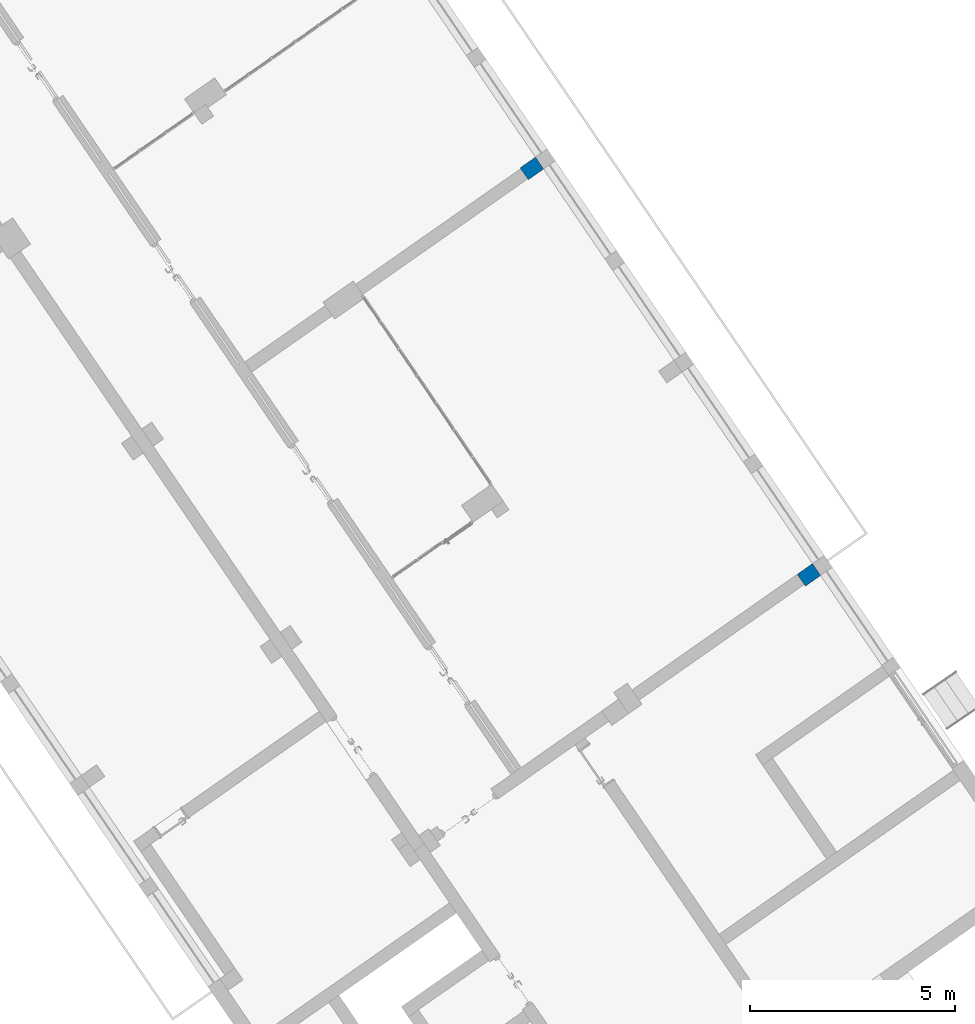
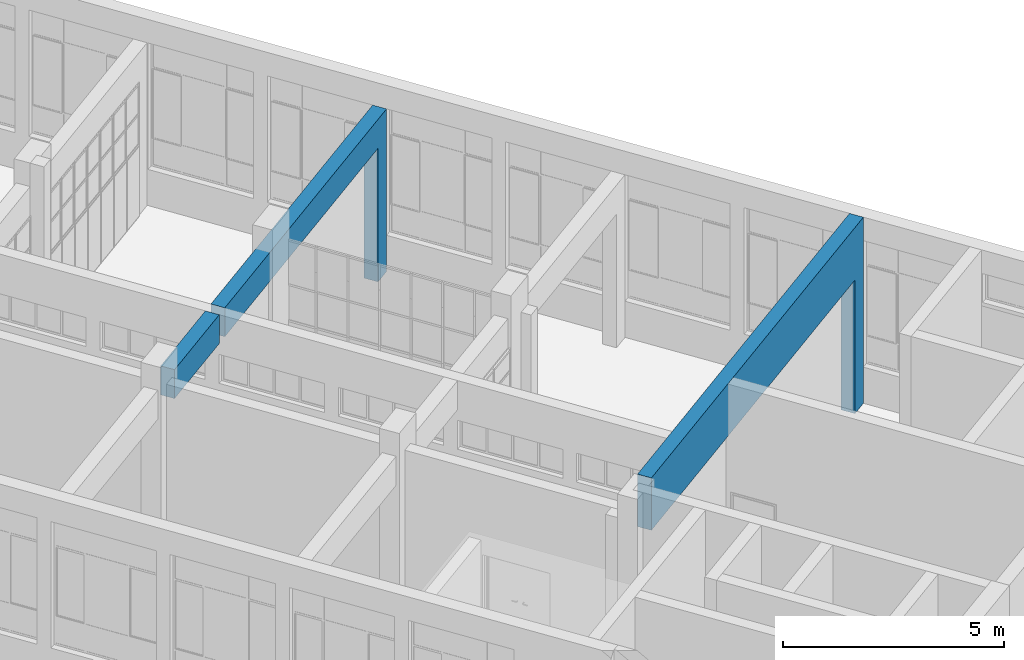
# One storey, part 145 of 157: 2 walls.
"""IFC2X3 building model written with IfcOpenShell, lengths in millimetres."""

import ifcopenshell
import ifcopenshell.guid

model = None  # the IFC model being written
_history = None  # IfcOwnerHistory: only IFC2X3 demands one
_inside = {}  # id of a spatial element -> (the spatial element, [elements in it])
_under = {}  # id of a project, library or spatial element -> (it, [spatial elements below it])
_declared = {}  # id of a project -> (the project, [libraries it declares])
_typed = {}  # id of a type object -> (the type object, [elements of that type])
_made_of = {}  # id of a material, layer set ... -> (it, [elements and type objects made of it])


def new_model(schema):
    """Start an empty IFC model of exactly this schema.

    Asked for "IFC4X3", IfcOpenShell would pick the latest addendum, in which some entities
    have other attributes; the version numbers below select the first issue.
    IFC2X3 requires an IfcOwnerHistory on every rooted entity: one is made here for all.
    """
    global model, _history
    if schema == "IFC4X3":
        model = ifcopenshell.file(schema_version=(4, 3, 0, 0))
    else:
        model = ifcopenshell.file(schema=schema)
    _inside.clear()
    _under.clear()
    _declared.clear()
    _typed.clear()
    _made_of.clear()
    _history = None
    if model.schema == "IFC2X3":
        org = make("IfcOrganization", Name="unknown")
        user = make(
            "IfcPersonAndOrganization",
            ThePerson=make("IfcPerson", FamilyName="unknown"),
            TheOrganization=org,
        )
        app = make(
            "IfcApplication",
            ApplicationDeveloper=org,
            Version="unknown",
            ApplicationFullName="unknown",
            ApplicationIdentifier="unknown",
        )
        _history = make(
            "IfcOwnerHistory",
            OwningUser=user,
            OwningApplication=app,
            ChangeAction="ADDED",
            CreationDate=0,
        )
    return model


def make(cls, **values):
    """One entity of the class cls with the attributes given. An attribute that is None is left unset."""
    return model.create_entity(
        cls, **{name: value for name, value in values.items() if value is not None}
    )


def entity(cls, *values):
    """Any entity or typed value of the class cls, its attributes in the order of the schema. None: left unset."""
    e = model.create_entity(cls)
    for i, value in enumerate(values):
        if value is not None:
            e[i] = value
    return e


def rooted(cls, **values):
    """An entity with a GlobalId (a new one), such as an element, a storey or a relation."""
    return make(cls, GlobalId=ifcopenshell.guid.new(), OwnerHistory=_history, **values)


def si_unit(unit_type, name, prefix=None):
    """IfcSIUnit, for example si_unit("LENGTHUNIT", "METRE", prefix="MILLI")."""
    return make("IfcSIUnit", UnitType=unit_type, Prefix=prefix, Name=name)


def converted_unit(unit_type, name, factor, base, dimensions=None, offset=None):
    """IfcConversionBasedUnit, such as the inch: factor (a typed value) times the base unit."""
    return make(
        "IfcConversionBasedUnit"
        if offset is None
        else "IfcConversionBasedUnitWithOffset",
        ConversionOffset=offset,
        Dimensions=None
        if dimensions is None
        else entity("IfcDimensionalExponents", *dimensions),
        UnitType=unit_type,
        Name=name,
        ConversionFactor=make(
            "IfcMeasureWithUnit", ValueComponent=factor, UnitComponent=base
        ),
    )


def derived_unit(unit_type, elements):
    """IfcDerivedUnit: a product of units, each with its exponent."""
    return make(
        "IfcDerivedUnit",
        Elements=[
            make("IfcDerivedUnitElement", Unit=unit, Exponent=power)
            for unit, power in elements
        ],
        UnitType=unit_type,
    )


def assignment(units):
    """IfcUnitAssignment: the units of a project."""
    return None if units is None else make("IfcUnitAssignment", Units=units)


def point(xyz):
    """IfcCartesianPoint."""
    return None if xyz is None else make("IfcCartesianPoint", Coordinates=xyz)


def direction(xyz):
    """IfcDirection."""
    return None if xyz is None else make("IfcDirection", DirectionRatios=xyz)


def frame(location, z_axis=None, x_axis=None):
    """IfcAxis2Placement3D, a coordinate frame: its origin and axes. An axis left out is left unset."""
    return make(
        "IfcAxis2Placement3D",
        Location=point(location),
        Axis=direction(z_axis),
        RefDirection=direction(x_axis),
    )


def origin():
    """The frame at (0, 0, 0) with its axes left unset."""
    return frame((0.0, 0.0, 0.0))


def place(relative_to, where):
    """IfcLocalPlacement: puts the frame where relative to a parent placement (None: the world)."""
    return make(
        "IfcLocalPlacement", PlacementRelTo=relative_to, RelativePlacement=where
    )


def context(
    kind, dimensions, precision=None, world=None, true_north=None, identifier=None
):
    """IfcGeometricRepresentationContext, for example the 3D "Model" context."""
    return make(
        "IfcGeometricRepresentationContext",
        ContextIdentifier=identifier,
        ContextType=kind,
        CoordinateSpaceDimension=dimensions,
        Precision=precision,
        WorldCoordinateSystem=world,
        TrueNorth=true_north,
    )


def subcontext(parent, identifier, kind, view, scale=None):
    """IfcGeometricRepresentationSubContext, for example "Body" below "Model"."""
    return make(
        "IfcGeometricRepresentationSubContext",
        ContextIdentifier=identifier,
        ContextType=kind,
        ParentContext=parent,
        TargetScale=scale,
        TargetView=view,
    )


def project(units=None, contexts=None):
    """IfcProject with its units and contexts."""
    return rooted(
        "IfcProject",
        Name="project",
        RepresentationContexts=contexts,
        UnitsInContext=assignment(units),
    )


def spatial(cls, under=None, at=None, **own):
    """A site, building, storey or space (cls), placed at a placement, below another one or the project."""
    s = rooted(cls, ObjectPlacement=at, **own)
    if under is not None:
        _under.setdefault(under.id(), (under, []))[1].append(s)
    return s


def faces_of(points, faces, orient=None, outer=None):
    """IfcFace entities. A face is a list of loops; a loop is a list of indices into points, from 0.

    orient and outer hold one flag for each loop. By default every Orientation is true, the
    first loop of a face is its IfcFaceOuterBound and the others are IfcFaceBound.
    """
    made = []
    for i, loops in enumerate(faces):
        bounds = []
        for j, loop in enumerate(loops):
            is_outer = j == 0 if outer is None else outer[i][j]
            bounds.append(
                make(
                    "IfcFaceOuterBound" if is_outer else "IfcFaceBound",
                    Bound=make("IfcPolyLoop", Polygon=[points[k] for k in loop]),
                    Orientation=True if orient is None else orient[i][j],
                )
            )
        made.append(make("IfcFace", Bounds=bounds))
    return made


def faceted_brep(points, faces, orient=None, outer=None, voids=None):
    """IfcFacetedBrep: a solid bounded by flat faces; with voids (closed shells), ...WithVoids."""
    shared = [point(p) for p in points]
    hull = make("IfcClosedShell", CfsFaces=faces_of(shared, faces, orient, outer))
    if voids is None:
        return make("IfcFacetedBrep", Outer=hull)
    return make(
        "IfcFacetedBrepWithVoids",
        Outer=hull,
        Voids=[
            make(cls, CfsFaces=faces_of(shared, fs, o, b)) for cls, fs, o, b in voids
        ],
    )


def shape(context_of_items, identifier, shape_type, items):
    """IfcShapeRepresentation: the items that make up one representation, for example the "Body"."""
    return make(
        "IfcShapeRepresentation",
        ContextOfItems=context_of_items,
        RepresentationIdentifier=identifier,
        RepresentationType=shape_type,
        Items=items,
    )


def material(Name=None, Category=None):
    """IfcMaterial."""
    return make("IfcMaterial", Name=Name, Category=Category)


def layer(
    of_material, thickness, ventilated=None, Name=None, Category=None, Priority=None
):
    """IfcMaterialLayer: one layer of a wall or slab, of a material (None: an air gap)."""
    return make(
        "IfcMaterialLayer",
        Material=of_material,
        LayerThickness=thickness,
        IsVentilated=ventilated,
        Name=Name,
        Category=Category,
        Priority=Priority,
    )


def layer_set(layers, Name=None):
    """IfcMaterialLayerSet."""
    return make("IfcMaterialLayerSet", MaterialLayers=layers, LayerSetName=Name)


def made_of(thing, what):
    """Note that an element or type object is made of a material, layer set ...; save() writes the relation."""
    if what is not None:
        _made_of.setdefault(what.id(), (what, []))[1].append(thing)
    return thing


def type_object(cls, material=None, **own):
    """A type object (cls), such as IfcWallType, which elements share."""
    return made_of(rooted(cls, **own), material)


def element(
    cls,
    number,
    at=None,
    inside=None,
    cuts=None,
    type_object=None,
    material=None,
    context=None,
    identifier="Body",
    shape_type=None,
    held_by="IfcProductDefinitionShape",
    body=None,
    shapes=None,
    **own,
):
    """One element of the class cls, such as IfcWall. Its Tag is "e" and its number.

    at: its placement. inside: the storey or other place that contains it. cuts: it is an
    opening in that element (IfcRelVoidsElement). A single representation is given by context,
    identifier, shape_type and body (its items); several are given by shapes. held_by: the class
    of the entity that holds the representations. save() writes the other relations.
    """
    e = rooted(cls, Tag="e%d" % number, ObjectPlacement=at, **own)
    if body is not None:
        shapes = [shape(context, identifier, shape_type, body)]
    if shapes is not None:
        e.Representation = make(held_by, Representations=shapes)
    if inside is not None:
        _inside.setdefault(inside.id(), (inside, []))[1].append(e)
    if cuts is not None:
        rooted(
            "IfcRelVoidsElement", RelatingBuildingElement=cuts, RelatedOpeningElement=e
        )
    if type_object is not None:
        _typed.setdefault(type_object.id(), (type_object, []))[1].append(e)
    return made_of(e, material)


def aggregate(whole, parts):
    """IfcRelAggregates: a whole, such as a stair, and the parts it consists of."""
    return rooted("IfcRelAggregates", RelatingObject=whole, RelatedObjects=parts)


def save(model, path):
    """Write the relations noted so far, then the file.

    IfcRelAggregates (storeys below a building ...), IfcRelContainedInSpatialStructure (elements
    in a storey), IfcRelDefinesByType, IfcRelAssociatesMaterial and IfcRelDeclares: one each for
    every whole, place, type object, material and project.
    """
    for whole, parts in _under.values():
        aggregate(whole, parts)
    for where, things in _inside.values():
        rooted(
            "IfcRelContainedInSpatialStructure",
            RelatedElements=things,
            RelatingStructure=where,
        )
    for kind, things in _typed.values():
        rooted("IfcRelDefinesByType", RelatedObjects=things, RelatingType=kind)
    for what, things in _made_of.values():
        rooted("IfcRelAssociatesMaterial", RelatedObjects=things, RelatingMaterial=what)
    for by, libraries in _declared.values():
        rooted("IfcRelDeclares", RelatingContext=by, RelatedDefinitions=libraries)
    model.write(path)


model = new_model("IFC2X3")

# Units and contexts
model_context = context("Model", 3, precision=0.01, world=origin(), true_north=direction((6.123031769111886e-17, 1.0)))
body_context = subcontext(model_context, "Body", "Model", "MODEL_VIEW")
ifc_project = project(units=[si_unit("LENGTHUNIT", "METRE", prefix="MILLI"), si_unit("AREAUNIT", "SQUARE_METRE"), si_unit("VOLUMEUNIT", "CUBIC_METRE"), converted_unit("PLANEANGLEUNIT", "DEGREE", entity("IfcRatioMeasure", 0.017453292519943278), si_unit("PLANEANGLEUNIT", "RADIAN"), dimensions=[0, 0, 0, 0, 0, 0, 0]), si_unit("MASSUNIT", "GRAM", prefix="KILO"), derived_unit("MASSDENSITYUNIT", [(si_unit("MASSUNIT", "GRAM", prefix="KILO"), 1), (si_unit("LENGTHUNIT", "METRE"), -3)]), derived_unit("MOMENTOFINERTIAUNIT", [(si_unit("LENGTHUNIT", "METRE"), 4)]), si_unit("TIMEUNIT", "SECOND"), si_unit("FREQUENCYUNIT", "HERTZ"), si_unit("THERMODYNAMICTEMPERATUREUNIT", "DEGREE_CELSIUS"), derived_unit("THERMALTRANSMITTANCEUNIT", [(si_unit("MASSUNIT", "GRAM", prefix="KILO"), 1), (si_unit("THERMODYNAMICTEMPERATUREUNIT", "KELVIN"), -1), (si_unit("TIMEUNIT", "SECOND"), -3)]), derived_unit("THERMALCONDUCTANCEUNIT", [(si_unit("MASSUNIT", "GRAM", prefix="KILO"), 1), (si_unit("LENGTHUNIT", "METRE"), 1), (si_unit("THERMODYNAMICTEMPERATUREUNIT", "KELVIN"), -1), (si_unit("TIMEUNIT", "SECOND"), -3)]), derived_unit("VOLUMETRICFLOWRATEUNIT", [(si_unit("LENGTHUNIT", "METRE"), 3), (si_unit("TIMEUNIT", "SECOND"), -1)]), derived_unit("MASSFLOWRATEUNIT", [(si_unit("MASSUNIT", "GRAM", prefix="KILO"), 1), (si_unit("TIMEUNIT", "SECOND"), -1)]), derived_unit("ROTATIONALFREQUENCYUNIT", [(si_unit("TIMEUNIT", "SECOND"), -1)]), si_unit("ELECTRICCURRENTUNIT", "AMPERE"), si_unit("ELECTRICVOLTAGEUNIT", "VOLT"), si_unit("POWERUNIT", "WATT"), converted_unit("FORCEUNIT", "KIP", entity("IfcRatioMeasure", 2.088543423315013e-05), si_unit("FORCEUNIT", "NEWTON"), dimensions=[1, 1, -2, 0, 0, 0, 0]), si_unit("ILLUMINANCEUNIT", "LUX"), si_unit("LUMINOUSFLUXUNIT", "LUMEN"), si_unit("LUMINOUSINTENSITYUNIT", "CANDELA"), derived_unit("USERDEFINED", [(si_unit("MASSUNIT", "GRAM", prefix="KILO"), -1), (si_unit("LENGTHUNIT", "METRE"), -2), (si_unit("TIMEUNIT", "SECOND"), 3), (si_unit("LUMINOUSFLUXUNIT", "LUMEN"), 1)]), derived_unit("USERDEFINED", [(si_unit("MASSUNIT", "GRAM", prefix="KILO"), 1), (si_unit("LENGTHUNIT", "METRE"), 3), (si_unit("TIMEUNIT", "SECOND"), -3), (si_unit("ELECTRICCURRENTUNIT", "AMPERE"), -2)]), derived_unit("USERDEFINED", [(si_unit("LENGTHUNIT", "METRE"), 2), (si_unit("TIMEUNIT", "SECOND"), -2)]), derived_unit("SOUNDPOWERUNIT", [(si_unit("MASSUNIT", "GRAM", prefix="KILO"), 1), (si_unit("LENGTHUNIT", "METRE"), 2), (si_unit("TIMEUNIT", "SECOND"), -3)]), derived_unit("SOUNDPRESSUREUNIT", [(si_unit("MASSUNIT", "GRAM", prefix="KILO"), 1), (si_unit("LENGTHUNIT", "METRE"), -1), (si_unit("TIMEUNIT", "SECOND"), -2)]), derived_unit("LINEARVELOCITYUNIT", [(si_unit("LENGTHUNIT", "METRE"), 1), (si_unit("TIMEUNIT", "SECOND"), -1)]), si_unit("PRESSUREUNIT", "PASCAL"), derived_unit("USERDEFINED", [(si_unit("LENGTHUNIT", "METRE"), -2), (si_unit("MASSUNIT", "GRAM", prefix="KILO"), 1), (si_unit("TIMEUNIT", "SECOND"), -2)]), derived_unit("LINEARFORCEUNIT", [(si_unit("MASSUNIT", "GRAM", prefix="KILO"), 1), (si_unit("LENGTHUNIT", "METRE"), 1), (si_unit("TIMEUNIT", "SECOND"), -2), (si_unit("LENGTHUNIT", "METRE"), -1)]), derived_unit("PLANARFORCEUNIT", [(si_unit("MASSUNIT", "GRAM", prefix="KILO"), 1), (si_unit("LENGTHUNIT", "METRE"), 1), (si_unit("TIMEUNIT", "SECOND"), -2), (si_unit("LENGTHUNIT", "METRE"), -2)]), derived_unit("SPECIFICHEATCAPACITYUNIT", [(si_unit("LENGTHUNIT", "METRE"), 2), (si_unit("TIMEUNIT", "SECOND"), -2), (si_unit("THERMODYNAMICTEMPERATUREUNIT", "KELVIN"), -1)]), derived_unit("VAPORPERMEABILITYUNIT", [(si_unit("TIMEUNIT", "SECOND"), 1), (si_unit("LENGTHUNIT", "METRE"), -1)]), derived_unit("DYNAMICVISCOSITYUNIT", [(si_unit("MASSUNIT", "GRAM", prefix="KILO"), 1), (si_unit("LENGTHUNIT", "METRE"), -1), (si_unit("TIMEUNIT", "SECOND"), -1)]), derived_unit("THERMALEXPANSIONCOEFFICIENTUNIT", [(si_unit("THERMODYNAMICTEMPERATUREUNIT", "KELVIN"), -1)])], contexts=[model_context])

# Site, building, storey
site_placement = place(None, frame((0.0, 0.0, 0.0), z_axis=(0.0, 0.0, 1.0), x_axis=(0.8191520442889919, 0.5735764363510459, 0.0)))
site = spatial("IfcSite", under=ifc_project, at=site_placement, Name="Default", CompositionType="ELEMENT")
building_placement = place(site_placement, origin())
building = spatial("IfcBuilding", under=site, at=building_placement, CompositionType="ELEMENT")
storey_placement = place(building_placement, origin())
storey = spatial("IfcBuildingStorey", under=building, at=storey_placement, Name="1.EG +0.00", CompositionType="ELEMENT", Elevation=-4.331468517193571e-12)

# Walls
ifc_material = material(Name="Analytical Wall Surface_CJC")
ifc_layer = layer(ifc_material, 350.0)
ifc_layer_set = layer_set([ifc_layer], Name="Basic Wall:Wand_Innen_35")
wall_type = type_object("IfcWallType", Name="Basic Wall:Wand_Innen_35", PredefinedType="STANDARD", material=ifc_layer_set)
wall_1_placement = place(storey_placement, frame((-205631.7353166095, 73396.35891435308, 0.0), z_axis=(0.0, 0.0, 1.0), x_axis=(-1.0, 0.0, 0.0)))
element("IfcWall", 1, at=wall_1_placement, inside=storey, type_object=wall_type, Name="Basic Wall:Wand_Innen_35", ObjectType="Basic Wall:Wand_Innen_35", context=body_context, shape_type="Brep", body=[
    faceted_brep([(0.0, -175.0, 0.0), (458.5853071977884, -175.0, 0.0), (458.5853071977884, -175.0, 3700.0), (5379.071493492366, -175.0, 3700.0), (6279.07149349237, -175.0, 3700.0), (8677.074573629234, -175.0, 3700.0), (8677.074573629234, -175.0, 4500.0), (6279.07149349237, -175.0, 4500.0), (5379.071493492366, -175.0, 4500.0), (0.0, -175.0, 4500.0), (4.447289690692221, 175.0, 0.0), (458.58530719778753, 175.0, 0.0), (458.5853071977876, 150.0, 0.0), (458.5853071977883, -150.0, 0.0), (458.5853071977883, -150.0, 3700.0), (458.5853071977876, 150.0, 3700.0), (458.58530719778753, 175.0, 3700.0), (5379.071493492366, 175.0, 3700.0), (6279.07149349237, 175.0, 3700.0), (8681.5302903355, 175.0, 3700.0), (4.447289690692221, 175.0, 4500.0), (8681.5302903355, 175.0, 4500.0), (6279.07149349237, 175.0, 4500.0), (5379.071493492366, 175.0, 4500.0)], [[[0, 1, 2, 3, 4, 5, 6, 7, 8, 9]], [[1, 0, 10, 11, 12, 13]], [[2, 14, 15, 16, 17, 18, 19, 5, 4, 3]], [[2, 1, 13, 12, 11, 16, 15, 14]], [[0, 9, 20, 10]], [[6, 5, 19, 21]], [[20, 9, 8, 7, 6, 21, 22, 23]], [[11, 10, 20, 23, 22, 21, 19, 18, 17, 16]]]),
    faceted_brep([(11379.569973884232, 175.0, 4500.0), (11379.569973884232, 175.0, 3700.0), (11379.107957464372, 175.0, 3700.0), (8981.554599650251, 175.0, 3700.0), (8981.554599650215, 175.0, 4500.0), (11379.107957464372, 175.0, 4500.0), (11379.569973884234, -175.0, 4500.0), (11379.569973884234, -175.0, 3700.0), (8977.098882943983, -175.0, 4500.0), (11379.107957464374, -175.0, 4500.0), (8977.098882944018, -175.0, 3700.0), (11379.107957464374, -175.0, 3700.0)], [[[0, 1, 2, 3, 4, 5]], [[6, 7, 1, 0]], [[6, 0, 5, 4, 8, 9]], [[10, 8, 4, 3]], [[1, 7, 11, 10, 3, 2]], [[7, 6, 9, 8, 10, 11]]]),
])
wall_2_placement = place(storey_placement, frame((-205784.2138202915, 61396.358914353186, 0.0), z_axis=(0.0, 0.0, 1.0), x_axis=(-1.0, 0.0, 0.0)))
element("IfcWall", 2, at=wall_2_placement, inside=storey, type_object=wall_type, Name="Basic Wall:Wand_Innen_35", ObjectType="Basic Wall:Wand_Innen_35", context=body_context, shape_type="Brep", body=[
    faceted_brep([(0.0, -175.0, 0.0), (456.1527362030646, -175.0, 0.0), (456.1527362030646, -175.0, 3700.0), (5374.549973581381, -175.0, 3700.0), (11377.13740288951, -175.0, 3700.0), (11377.13740288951, -175.0, 5150.0), (0.0, -175.0, 5150.0), (4.447289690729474, 175.0, 0.0), (4.447289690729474, 175.0, 5150.0), (6981.681463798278, 175.0, 5150.0), (7281.705773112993, 175.0, 5150.0), (11377.13740288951, 175.0, 5150.0), (11377.13740288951, 175.0, 3700.0), (7281.705773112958, 175.0, 3700.0), (6981.6814637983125, 175.0, 3700.0), (456.1527362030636, 175.0, 3700.0), (456.1527362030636, 175.0, 0.0), (456.15273620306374, 125.0, 0.0), (456.15273620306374, 125.0, 3700.0)], [[[0, 1, 2, 3, 4, 5, 6]], [[7, 8, 9, 10, 11, 12, 13, 14, 15, 16]], [[5, 4, 12, 11]], [[1, 0, 7, 16, 17]], [[4, 3, 2, 18, 15, 14, 13, 12]], [[6, 5, 11, 10, 9, 8]], [[2, 1, 17, 16, 15, 18]], [[0, 6, 8, 7]]]),
])

save(model, "model.ifc")
